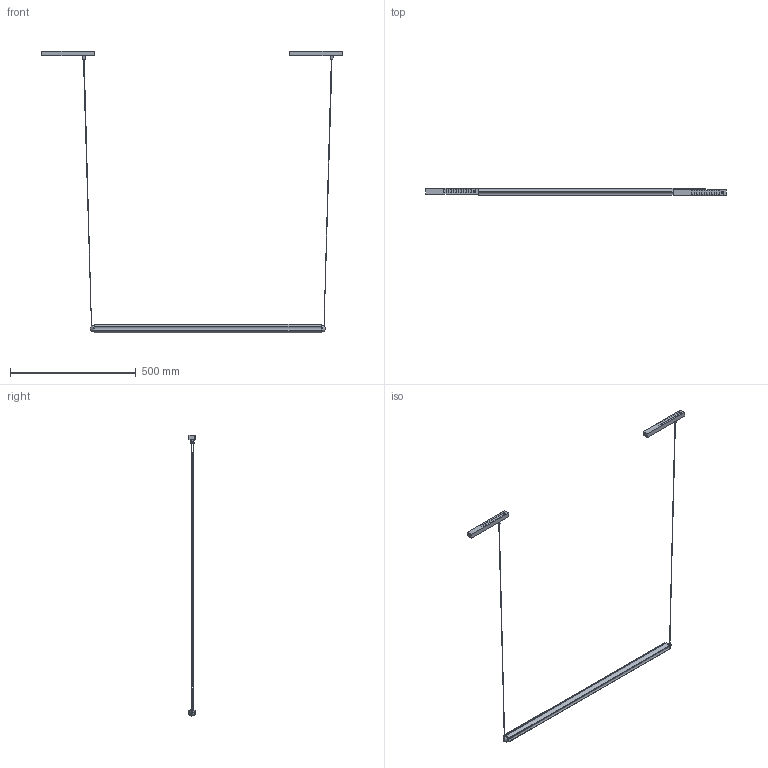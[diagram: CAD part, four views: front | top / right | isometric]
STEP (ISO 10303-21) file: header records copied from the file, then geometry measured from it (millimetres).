
FILE_DESCRIPTION(/* description */ (''),/* implementation_level */ '2;1');
FILE_NAME(/* name */ '64672141D_3d',/* time_stamp */ '2026-05-12T10:31:36+02:00',/* author */ (''),/* organization */ (''),/* preprocessor_version */ 'ST-DEVELOPER v19.2',/* originating_system */ 'Rhino 8.30',/* authorisation */ '');
FILE_SCHEMA (('CONFIG_CONTROL_DESIGN'));
Length unit declared in the file: millimetre
Products named in the file (1): Document
Bounding box: 1192.88 x 31.01 x 1118.97 mm (x, y, z)
Volume: 335200.7 mm3; surface area: 205641.5 mm2
Topology: 11 solids, 15 shells, 219 faces, 580 edges, 390 vertices
Faces by surface type: plane 112, cylinder 95, bspline 12
Entity records: 11876 total; most frequent: CARTESIAN_POINT 7102, ORIENTED_EDGE 1122, EDGE_CURVE 573, DIRECTION 540, B_SPLINE_CURVE_WITH_KNOTS 395, VERTEX_POINT 386, AXIS2_PLACEMENT_3D 373, EDGE_LOOP 257
